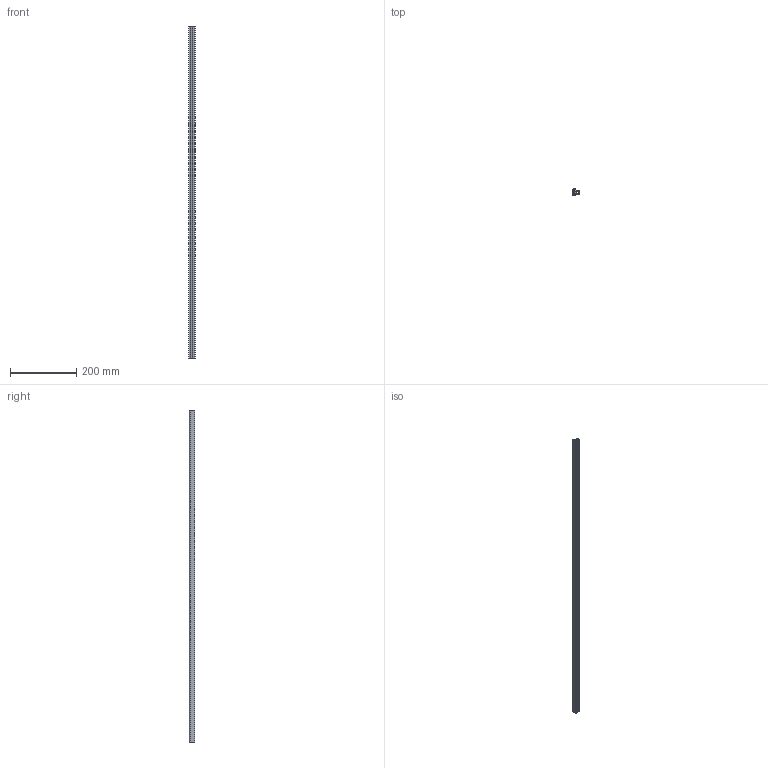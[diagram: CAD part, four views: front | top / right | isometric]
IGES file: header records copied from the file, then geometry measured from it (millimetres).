
Start section: SolidWorks IGES file using analytic representation for surfaces
Bounding box: 20.34 x 16.7 x 1000 mm (x, y, z)
Surface area: 146065.9 mm2 (no closed solid volume)
Topology: 0 solids, 0 shells, 63 faces, 724 edges, 724 vertices
Faces by surface type: revolution 36, bspline 27
